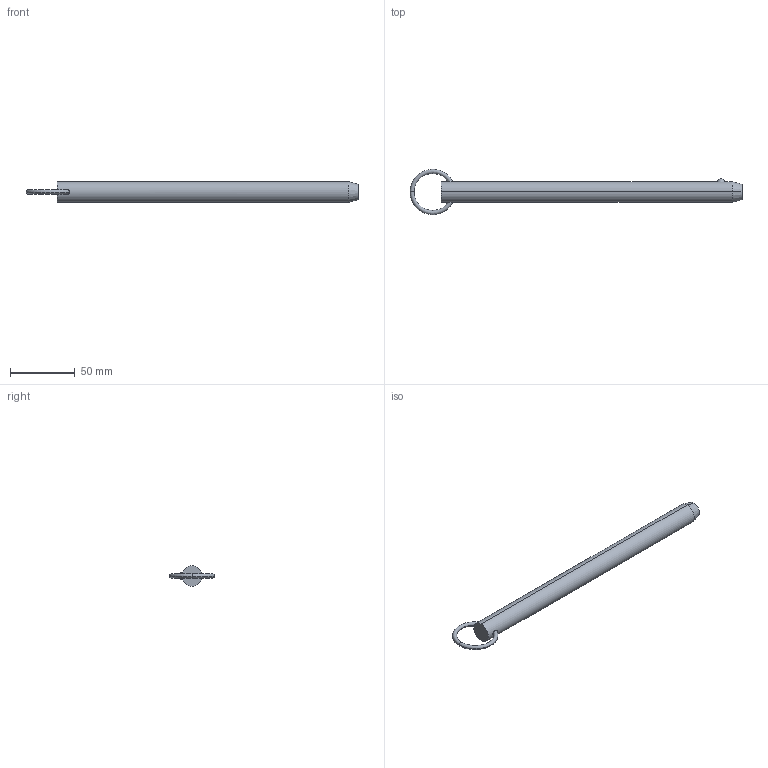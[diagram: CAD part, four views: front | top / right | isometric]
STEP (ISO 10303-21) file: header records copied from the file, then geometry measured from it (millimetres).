
FILE_DESCRIPTION (( 'STEP AP203' ), '1' );
FILE_NAME ('33010.W6280.step', '2024-11-01T10:43:08', ( '' ), ( '' ), 'SwSTEP 2.0', 'SolidWorks 2019', '' );
FILE_SCHEMA (( 'CONFIG_CONTROL_DESIGN' ));
Length unit declared in the file: millimetre
Products named in the file (3): 33010.W6280; Part2_33010.W6280; Part1_33010.W6280
Assembly tree (2 placements, depth 2):
  33010.W6280
    Part1_33010.W6280
    Part2_33010.W6280
Bounding box: 255.71 x 34.93 x 15.88 mm (x, y, z)
Volume: 46191.3 mm3; surface area: 13026.5 mm2
Topology: 2 solids, 2 shells, 16 faces, 31 edges, 18 vertices
Faces by surface type: torus 8, sphere 2, cone 2, cylinder 2, plane 2
Entity records: 889 total; most frequent: CARTESIAN_POINT 246, DIRECTION 88, ORIENTED_EDGE 62, AXIS2_PLACEMENT_3D 42, EDGE_CURVE 31, PERSON_AND_ORGANIZATION 26, CIRCLE 21, LOCAL_TIME 19
